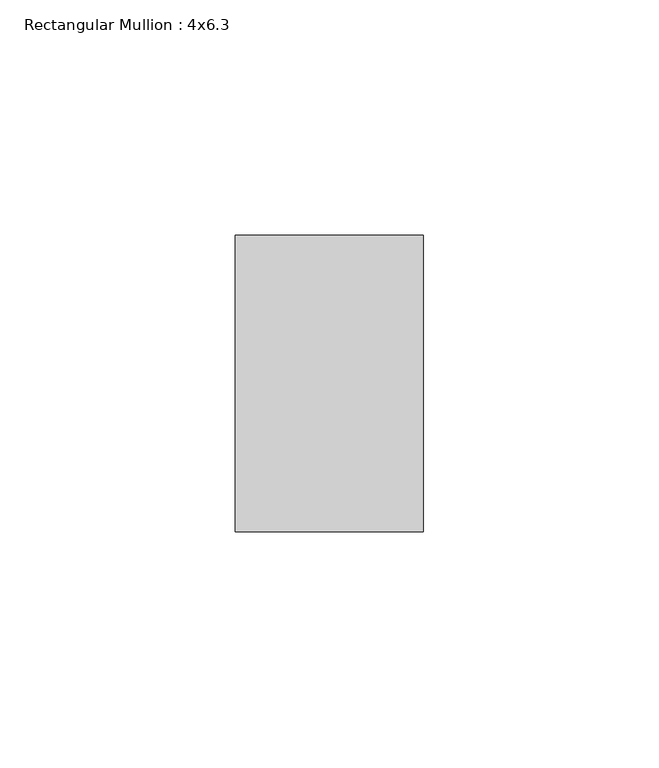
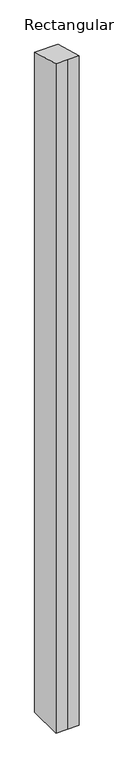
"""IFC4 building model written with IfcOpenShell, lengths in millimetres: member geometry, Rectangular Mullion : 4x6.3."""

from ifc_helpers import new_model, si_unit, origin, place, context, project, spatial, faceted_brep, source, transform, mapped, element, save


def rectangular_mullion_4x6_3_acf2d49b(model_context):
    return source(origin(), model_context, "Body", "Brep", [
        faceted_brep([(-20.0, 20.0, -1221.9055201), (-20.0, 83.0, -1221.9055201), (20.0, 83.0, -1221.9055201), (20.0, 20.0, -1221.9055201), (0.0, 20.0, -1221.9055201), (0.0, 20.0, -5.4283368), (-20.0, 20.0, -5.4283368), (20.0, 20.0, -5.4283368), (20.0, 83.0, -22.5275978), (-20.0, 83.0, -22.5275978)], [[[0, 1, 2, 3, 4]], [[5, 6, 0, 4]], [[7, 5, 4, 3]], [[8, 7, 3, 2]], [[9, 8, 2, 1]], [[6, 9, 1, 0]], [[6, 5, 7, 8, 9]]]),
    ])


if __name__ == "__main__":
    model = new_model("IFC4")
    model_context = context("Model", 3, world=origin())
    ifc_project = project(units=[si_unit("LENGTHUNIT", "METRE", prefix="MILLI")], contexts=[model_context])
    site = spatial("IfcSite", under=ifc_project)
    building = spatial("IfcBuilding", under=site)
    placement = place(None, origin())
    rectangular_mullion_4x6_3_shape = rectangular_mullion_4x6_3_acf2d49b(model_context)
    element("IfcMember", 1, ObjectType="Rectangular Mullion : 4x6.3", at=placement, inside=building, context=model_context, shape_type="MappedRepresentation", body=[
        mapped(rectangular_mullion_4x6_3_shape, transform((0.0, 0.0, 0.0), x_axis=(1.0, 0.0, 0.0), y_axis=(0.0, 1.0, 0.0), z_axis=(0.0, 0.0, 1.0))),
    ])
    save(model, "model.ifc")
